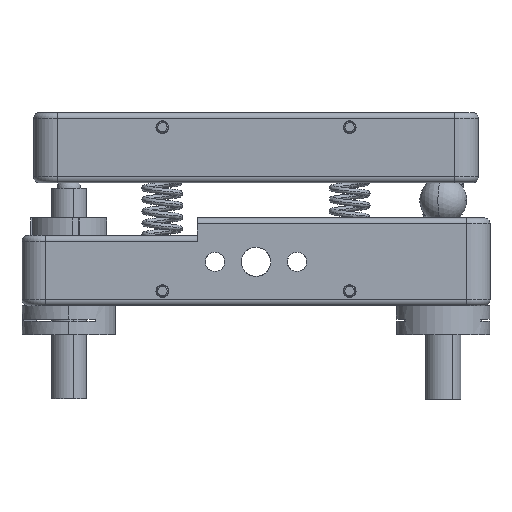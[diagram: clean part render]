
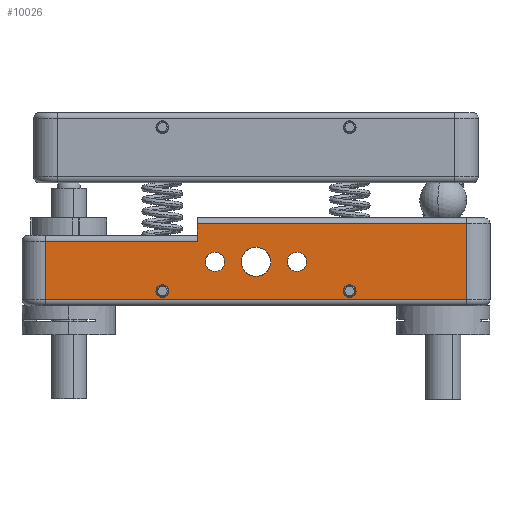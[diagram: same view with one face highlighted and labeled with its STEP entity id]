
A CAD part, left-side view. The second image highlights one B-rep face of the part: STEP entity #10026.
In plain terms, the highlighted planar face has unit normal (-1, 0, 0).
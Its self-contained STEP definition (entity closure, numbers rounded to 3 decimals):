
#141 = CARTESIAN_POINT ( 'NONE',  ( -41.266, 36.345, 15. ) ) ;
#195 = ORIENTED_EDGE ( 'NONE', *, *, #2968, .F. ) ;
#550 = DIRECTION ( 'NONE',  ( -1., 0., 0. ) ) ;
#779 = LINE ( 'NONE', #9830, #18946 ) ;
#958 = EDGE_CURVE ( 'NONE', #2597, #2177, #13121, .T. ) ;
#1038 = CARTESIAN_POINT ( 'NONE',  ( -41.266, 7.345, 7.5 ) ) ;
#1060 = EDGE_CURVE ( 'NONE', #23319, #8186, #7766, .T. ) ;
#1171 = EDGE_CURVE ( 'NONE', #18104, #12256, #7217, .T. ) ;
#1462 = CARTESIAN_POINT ( 'NONE',  ( -41.266, -35.655, 1. ) ) ;
#2066 = CARTESIAN_POINT ( 'NONE',  ( -41.266, 7.345, 9.15 ) ) ;
#2177 = VERTEX_POINT ( 'NONE', #22529 ) ;
#2289 = FACE_BOUND ( 'NONE', #3779, .T. ) ;
#2302 = EDGE_CURVE ( 'NONE', #11466, #23533, #15931, .T. ) ;
#2395 = CARTESIAN_POINT ( 'NONE',  ( -41.266, 10.345, 11. ) ) ;
#2566 = LINE ( 'NONE', #16634, #6890 ) ;
#2589 = DIRECTION ( 'NONE',  ( 0., 1., 0. ) ) ;
#2597 = VERTEX_POINT ( 'NONE', #1462 ) ;
#2864 = DIRECTION ( 'NONE',  ( 0., 0., -1. ) ) ;
#2933 = DIRECTION ( 'NONE',  ( 0., 0., 1. ) ) ;
#2968 = EDGE_CURVE ( 'NONE', #4008, #18442, #21841, .T. ) ;
#3006 = EDGE_CURVE ( 'NONE', #8186, #2597, #2566, .T. ) ;
#3166 = CARTESIAN_POINT ( 'NONE',  ( -41.266, 0.345, 7.5 ) ) ;
#3714 = EDGE_LOOP ( 'NONE', ( #18701, #7969 ) ) ;
#3779 = EDGE_LOOP ( 'NONE', ( #15531, #11618 ) ) ;
#4008 = VERTEX_POINT ( 'NONE', #10964 ) ;
#4049 = EDGE_CURVE ( 'NONE', #22998, #23465, #16324, .T. ) ;
#4537 = ORIENTED_EDGE ( 'NONE', *, *, #18876, .T. ) ;
#4877 = CARTESIAN_POINT ( 'NONE',  ( -41.266, -6.655, 9.15 ) ) ;
#4951 = AXIS2_PLACEMENT_3D ( 'NONE', #7163, #19767, #8976 ) ;
#5011 = DIRECTION ( 'NONE',  ( 0., 0., 1. ) ) ;
#5095 = VERTEX_POINT ( 'NONE', #5525 ) ;
#5356 = CARTESIAN_POINT ( 'NONE',  ( -41.266, 0.345, 7.5 ) ) ;
#5505 = EDGE_CURVE ( 'NONE', #2177, #12256, #16572, .T. ) ;
#5525 = CARTESIAN_POINT ( 'NONE',  ( -41.266, -6.655, 5.85 ) ) ;
#5566 = DIRECTION ( 'NONE',  ( -1., 0., 0. ) ) ;
#5759 = DIRECTION ( 'NONE',  ( -1., 0., 0. ) ) ;
#5956 = DIRECTION ( 'NONE',  ( 0., 0., 1. ) ) ;
#6010 = AXIS2_PLACEMENT_3D ( 'NONE', #11883, #13729, #2864 ) ;
#6184 = DIRECTION ( 'NONE',  ( -1., 0., 0. ) ) ;
#6349 = CIRCLE ( 'NONE', #11494, 2.5 ) ;
#6354 = CARTESIAN_POINT ( 'NONE',  ( -41.266, 16.345, 3.6 ) ) ;
#6380 = PLANE ( 'NONE',  #6010 ) ;
#6754 = CARTESIAN_POINT ( 'NONE',  ( -41.266, 7.345, 5.85 ) ) ;
#6890 = VECTOR ( 'NONE', #12994, 1000. ) ;
#7136 = AXIS2_PLACEMENT_3D ( 'NONE', #7820, #20439, #9630 ) ;
#7163 = CARTESIAN_POINT ( 'NONE',  ( -41.266, 16.345, 2.5 ) ) ;
#7175 = FACE_BOUND ( 'NONE', #14078, .T. ) ;
#7188 = DIRECTION ( 'NONE',  ( 0., 0., 1. ) ) ;
#7217 = LINE ( 'NONE', #7704, #10866 ) ;
#7704 = CARTESIAN_POINT ( 'NONE',  ( -41.266, 10.345, 12. ) ) ;
#7722 = ORIENTED_EDGE ( 'NONE', *, *, #17552, .F. ) ;
#7727 = FACE_BOUND ( 'NONE', #3714, .T. ) ;
#7766 = LINE ( 'NONE', #141, #21612 ) ;
#7820 = CARTESIAN_POINT ( 'NONE',  ( -41.266, -15.655, 2.5 ) ) ;
#7961 = CARTESIAN_POINT ( 'NONE',  ( -41.266, 10.345, 14. ) ) ;
#7969 = ORIENTED_EDGE ( 'NONE', *, *, #13538, .F. ) ;
#8186 = VERTEX_POINT ( 'NONE', #11899 ) ;
#8242 = AXIS2_PLACEMENT_3D ( 'NONE', #11468, #550, #13290 ) ;
#8708 = AXIS2_PLACEMENT_3D ( 'NONE', #16362, #5566, #18169 ) ;
#8750 = EDGE_CURVE ( 'NONE', #21359, #20599, #6349, .T. ) ;
#8942 = ORIENTED_EDGE ( 'NONE', *, *, #958, .T. ) ;
#8962 = ORIENTED_EDGE ( 'NONE', *, *, #2302, .F. ) ;
#8976 = DIRECTION ( 'NONE',  ( 0., 0., 1. ) ) ;
#9408 = CARTESIAN_POINT ( 'NONE',  ( -41.266, 16.345, 2.5 ) ) ;
#9594 = EDGE_CURVE ( 'NONE', #18442, #4008, #16484, .T. ) ;
#9630 = DIRECTION ( 'NONE',  ( 0., 0., 1. ) ) ;
#9730 = AXIS2_PLACEMENT_3D ( 'NONE', #9408, #22019, #11188 ) ;
#9822 = CARTESIAN_POINT ( 'NONE',  ( -41.266, 10.345, 14. ) ) ;
#9830 = CARTESIAN_POINT ( 'NONE',  ( -41.266, 36.345, 11. ) ) ;
#10026 = ADVANCED_FACE ( 'NONE', ( #11957, #21574, #7727, #7175, #2289, #21023 ), #6380, .F. ) ;
#10281 = CARTESIAN_POINT ( 'NONE',  ( -41.266, 0.345, 10. ) ) ;
#10734 = CIRCLE ( 'NONE', #4951, 1.1 ) ;
#10813 = ORIENTED_EDGE ( 'NONE', *, *, #1171, .F. ) ;
#10866 = VECTOR ( 'NONE', #5956, 1000. ) ;
#10964 = CARTESIAN_POINT ( 'NONE',  ( -41.266, -15.655, 3.6 ) ) ;
#11188 = DIRECTION ( 'NONE',  ( 0., 0., 1. ) ) ;
#11466 = VERTEX_POINT ( 'NONE', #6754 ) ;
#11468 = CARTESIAN_POINT ( 'NONE',  ( -41.266, -6.655, 7.5 ) ) ;
#11494 = AXIS2_PLACEMENT_3D ( 'NONE', #3166, #15809, #5011 ) ;
#11561 = DIRECTION ( 'NONE',  ( 0., 1., 0. ) ) ;
#11618 = ORIENTED_EDGE ( 'NONE', *, *, #14880, .F. ) ;
#11766 = VECTOR ( 'NONE', #11561, 1000. ) ;
#11883 = CARTESIAN_POINT ( 'NONE',  ( -41.266, 40.345, 15. ) ) ;
#11899 = CARTESIAN_POINT ( 'NONE',  ( -41.266, 36.345, 1. ) ) ;
#11957 = FACE_BOUND ( 'NONE', #14453, .T. ) ;
#12031 = ORIENTED_EDGE ( 'NONE', *, *, #4049, .F. ) ;
#12256 = VERTEX_POINT ( 'NONE', #9822 ) ;
#12893 = DIRECTION ( 'NONE',  ( 0., 0., -1. ) ) ;
#12994 = DIRECTION ( 'NONE',  ( 0., -1., 0. ) ) ;
#13121 = LINE ( 'NONE', #16307, #22187 ) ;
#13290 = DIRECTION ( 'NONE',  ( 0., 0., 1. ) ) ;
#13538 = EDGE_CURVE ( 'NONE', #20599, #21359, #22703, .T. ) ;
#13681 = EDGE_LOOP ( 'NONE', ( #12031, #20734 ) ) ;
#13729 = DIRECTION ( 'NONE',  ( 1., 0., 0. ) ) ;
#13782 = DIRECTION ( 'NONE',  ( -1., 0., 0. ) ) ;
#14078 = EDGE_LOOP ( 'NONE', ( #7722, #8962 ) ) ;
#14163 = ORIENTED_EDGE ( 'NONE', *, *, #3006, .T. ) ;
#14207 = VERTEX_POINT ( 'NONE', #4877 ) ;
#14453 = EDGE_LOOP ( 'NONE', ( #195, #17251 ) ) ;
#14880 = EDGE_CURVE ( 'NONE', #5095, #14207, #22957, .T. ) ;
#15531 = ORIENTED_EDGE ( 'NONE', *, *, #17344, .F. ) ;
#15809 = DIRECTION ( 'NONE',  ( -1., 0., 0. ) ) ;
#15859 = ORIENTED_EDGE ( 'NONE', *, *, #1060, .T. ) ;
#15931 = CIRCLE ( 'NONE', #20608, 1.65 ) ;
#16102 = EDGE_LOOP ( 'NONE', ( #15859, #14163, #8942, #17633, #10813, #4537 ) ) ;
#16215 = AXIS2_PLACEMENT_3D ( 'NONE', #5356, #17971, #7188 ) ;
#16307 = CARTESIAN_POINT ( 'NONE',  ( -41.266, -35.655, 15. ) ) ;
#16324 = CIRCLE ( 'NONE', #9730, 1.1 ) ;
#16362 = CARTESIAN_POINT ( 'NONE',  ( -41.266, -6.655, 7.5 ) ) ;
#16484 = CIRCLE ( 'NONE', #7136, 1.1 ) ;
#16567 = CARTESIAN_POINT ( 'NONE',  ( -41.266, -15.655, 2.5 ) ) ;
#16572 = LINE ( 'NONE', #7961, #11766 ) ;
#16634 = CARTESIAN_POINT ( 'NONE',  ( -41.266, 40.345, 1. ) ) ;
#16995 = CARTESIAN_POINT ( 'NONE',  ( -41.266, 7.345, 7.5 ) ) ;
#17008 = CIRCLE ( 'NONE', #22013, 1.65 ) ;
#17159 = AXIS2_PLACEMENT_3D ( 'NONE', #16567, #5759, #18357 ) ;
#17251 = ORIENTED_EDGE ( 'NONE', *, *, #9594, .F. ) ;
#17344 = EDGE_CURVE ( 'NONE', #14207, #5095, #22983, .T. ) ;
#17552 = EDGE_CURVE ( 'NONE', #23533, #11466, #17008, .T. ) ;
#17633 = ORIENTED_EDGE ( 'NONE', *, *, #5505, .T. ) ;
#17771 = CARTESIAN_POINT ( 'NONE',  ( -41.266, 36.345, 11. ) ) ;
#17971 = DIRECTION ( 'NONE',  ( -1., 0., 0. ) ) ;
#18104 = VERTEX_POINT ( 'NONE', #2395 ) ;
#18169 = DIRECTION ( 'NONE',  ( 0., 0., 1. ) ) ;
#18245 = CARTESIAN_POINT ( 'NONE',  ( -41.266, 0.345, 5. ) ) ;
#18255 = DIRECTION ( 'NONE',  ( 0., 0., 1. ) ) ;
#18357 = DIRECTION ( 'NONE',  ( 0., 0., 1. ) ) ;
#18442 = VERTEX_POINT ( 'NONE', #22093 ) ;
#18701 = ORIENTED_EDGE ( 'NONE', *, *, #8750, .F. ) ;
#18798 = DIRECTION ( 'NONE',  ( 0., 0., 1. ) ) ;
#18876 = EDGE_CURVE ( 'NONE', #18104, #23319, #779, .T. ) ;
#18946 = VECTOR ( 'NONE', #2589, 1000. ) ;
#19767 = DIRECTION ( 'NONE',  ( -1., 0., 0. ) ) ;
#20133 = CARTESIAN_POINT ( 'NONE',  ( -41.266, 16.345, 1.4 ) ) ;
#20409 = EDGE_CURVE ( 'NONE', #23465, #22998, #10734, .T. ) ;
#20439 = DIRECTION ( 'NONE',  ( -1., 0., 0. ) ) ;
#20599 = VERTEX_POINT ( 'NONE', #18245 ) ;
#20608 = AXIS2_PLACEMENT_3D ( 'NONE', #16995, #6184, #18798 ) ;
#20734 = ORIENTED_EDGE ( 'NONE', *, *, #20409, .F. ) ;
#21023 = FACE_OUTER_BOUND ( 'NONE', #16102, .T. ) ;
#21359 = VERTEX_POINT ( 'NONE', #10281 ) ;
#21574 = FACE_BOUND ( 'NONE', #13681, .T. ) ;
#21612 = VECTOR ( 'NONE', #12893, 1000. ) ;
#21841 = CIRCLE ( 'NONE', #17159, 1.1 ) ;
#22013 = AXIS2_PLACEMENT_3D ( 'NONE', #1038, #13782, #2933 ) ;
#22019 = DIRECTION ( 'NONE',  ( -1., 0., 0. ) ) ;
#22093 = CARTESIAN_POINT ( 'NONE',  ( -41.266, -15.655, 1.4 ) ) ;
#22187 = VECTOR ( 'NONE', #18255, 1000. ) ;
#22529 = CARTESIAN_POINT ( 'NONE',  ( -41.266, -35.655, 14. ) ) ;
#22703 = CIRCLE ( 'NONE', #16215, 2.5 ) ;
#22957 = CIRCLE ( 'NONE', #8708, 1.65 ) ;
#22983 = CIRCLE ( 'NONE', #8242, 1.65 ) ;
#22998 = VERTEX_POINT ( 'NONE', #6354 ) ;
#23319 = VERTEX_POINT ( 'NONE', #17771 ) ;
#23465 = VERTEX_POINT ( 'NONE', #20133 ) ;
#23533 = VERTEX_POINT ( 'NONE', #2066 ) ;
